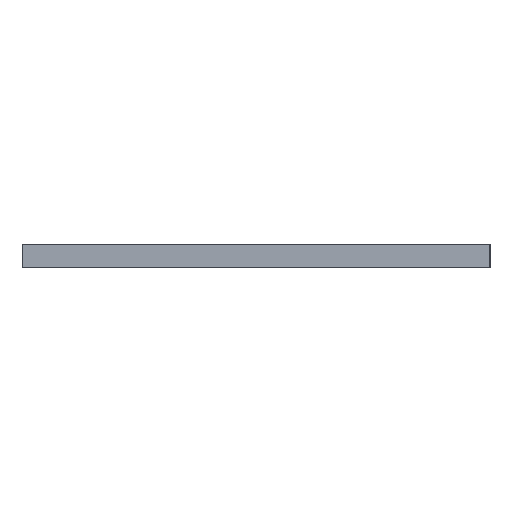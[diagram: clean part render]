
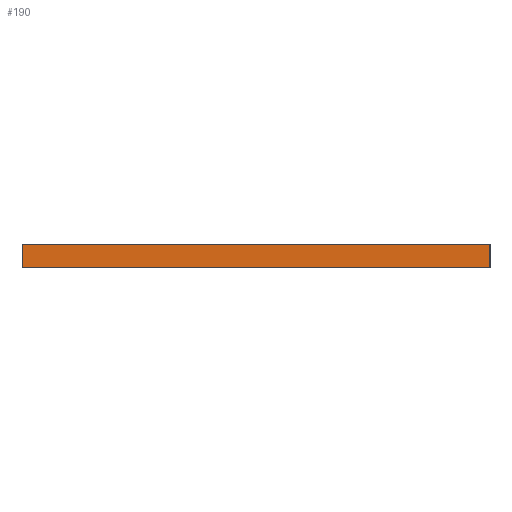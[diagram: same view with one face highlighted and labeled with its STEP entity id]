
A CAD part, left-side view. The second image highlights one B-rep face of the part: STEP entity #190.
In plain terms, the highlighted planar face has unit normal (-1, 0, 0).
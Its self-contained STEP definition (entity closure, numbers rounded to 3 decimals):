
#181 = VECTOR ( 'NONE', #3771, 1000. ) ;
#190 = ADVANCED_FACE ( 'NONE', ( #2815 ), #1156, .F. ) ;
#470 = ORIENTED_EDGE ( 'NONE', *, *, #1904, .F. ) ;
#899 = LINE ( 'NONE', #2544, #3367 ) ;
#1063 = CARTESIAN_POINT ( 'NONE',  ( 442.931, -711.987, 18. ) ) ;
#1082 = ORIENTED_EDGE ( 'NONE', *, *, #1320, .F. ) ;
#1095 = CARTESIAN_POINT ( 'NONE',  ( 442.931, -711.987, 18. ) ) ;
#1099 = CARTESIAN_POINT ( 'NONE',  ( 442.931, -711.987, 18. ) ) ;
#1156 = PLANE ( 'NONE',  #2301 ) ;
#1202 = CARTESIAN_POINT ( 'NONE',  ( 442.931, -711.987, 0. ) ) ;
#1225 = DIRECTION ( 'NONE',  ( 0., 0., -1. ) ) ;
#1276 = CARTESIAN_POINT ( 'NONE',  ( 442.931, -356.387, 0. ) ) ;
#1320 = EDGE_CURVE ( 'NONE', #1947, #3130, #2161, .T. ) ;
#1362 = VECTOR ( 'NONE', #1225, 1000. ) ;
#1382 = VERTEX_POINT ( 'NONE', #1276 ) ;
#1404 = VECTOR ( 'NONE', #3562, 1000. ) ;
#1608 = CARTESIAN_POINT ( 'NONE',  ( 442.931, -711.987, 0. ) ) ;
#1904 = EDGE_CURVE ( 'NONE', #2882, #1947, #2207, .T. ) ;
#1946 = DIRECTION ( 'NONE',  ( 1., 0., 0. ) ) ;
#1947 = VERTEX_POINT ( 'NONE', #1099 ) ;
#2161 = LINE ( 'NONE', #1095, #1362 ) ;
#2198 = EDGE_LOOP ( 'NONE', ( #4006, #1082, #470, #2663 ) ) ;
#2207 = LINE ( 'NONE', #1063, #1404 ) ;
#2301 = AXIS2_PLACEMENT_3D ( 'NONE', #2471, #1946, #2997 ) ;
#2471 = CARTESIAN_POINT ( 'NONE',  ( 442.931, -711.987, 18. ) ) ;
#2544 = CARTESIAN_POINT ( 'NONE',  ( 442.931, -356.387, 18. ) ) ;
#2562 = DIRECTION ( 'NONE',  ( 0., 0., -1. ) ) ;
#2573 = LINE ( 'NONE', #1608, #181 ) ;
#2663 = ORIENTED_EDGE ( 'NONE', *, *, #2731, .T. ) ;
#2731 = EDGE_CURVE ( 'NONE', #2882, #1382, #899, .T. ) ;
#2815 = FACE_OUTER_BOUND ( 'NONE', #2198, .T. ) ;
#2817 = CARTESIAN_POINT ( 'NONE',  ( 442.931, -356.387, 18. ) ) ;
#2882 = VERTEX_POINT ( 'NONE', #2817 ) ;
#2997 = DIRECTION ( 'NONE',  ( 0., 0., -1. ) ) ;
#3130 = VERTEX_POINT ( 'NONE', #1202 ) ;
#3367 = VECTOR ( 'NONE', #2562, 1000. ) ;
#3562 = DIRECTION ( 'NONE',  ( 0., -1., 0. ) ) ;
#3771 = DIRECTION ( 'NONE',  ( 0., -1., 0. ) ) ;
#3856 = EDGE_CURVE ( 'NONE', #1382, #3130, #2573, .T. ) ;
#4006 = ORIENTED_EDGE ( 'NONE', *, *, #3856, .T. ) ;
